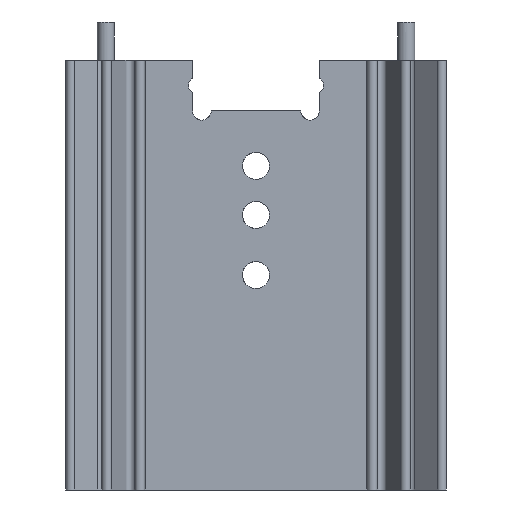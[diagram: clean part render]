
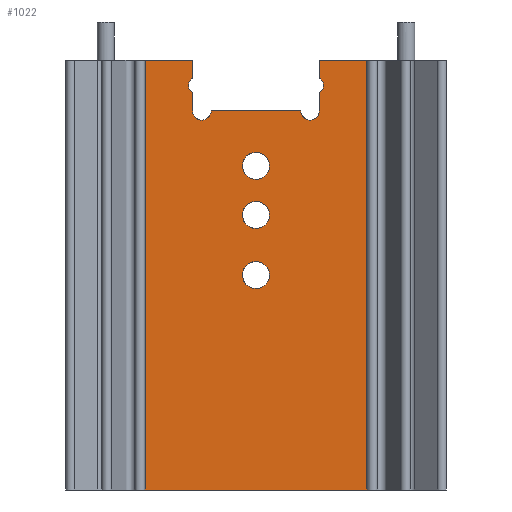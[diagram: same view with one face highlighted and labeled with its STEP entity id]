
A CAD part, front view. The second image highlights one B-rep face of the part: STEP entity #1022.
In plain terms, the highlighted planar face has unit normal (0, -1, 0).
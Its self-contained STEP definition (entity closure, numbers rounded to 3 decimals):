
#112=CARTESIAN_POINT('',(1.6,-0.002,12.7));
#113=VERTEX_POINT('',#112);
#114=CARTESIAN_POINT('',(0.,-0.002,12.7));
#115=DIRECTION('',(0.,1.,0.0));
#116=DIRECTION('',(-1.,0.,0.0));
#117=AXIS2_PLACEMENT_3D('',#114,#115,#116);
#118=ELLIPSE('',#117,1.6,1.6);
#119=EDGE_CURVE('',#113,#113,#118,.T.);
#140=CARTESIAN_POINT('',(1.6,-0.002,19.8));
#141=VERTEX_POINT('',#140);
#142=CARTESIAN_POINT('',(0.,-0.002,19.8));
#143=DIRECTION('',(0.,1.,0.0));
#144=DIRECTION('',(-1.,0.,0.0));
#145=AXIS2_PLACEMENT_3D('',#142,#143,#144);
#146=ELLIPSE('',#145,1.6,1.6);
#147=EDGE_CURVE('',#141,#141,#146,.T.);
#168=CARTESIAN_POINT('',(1.6,-0.002,25.6));
#169=VERTEX_POINT('',#168);
#170=CARTESIAN_POINT('',(0.,-0.002,25.6));
#171=DIRECTION('',(0.,1.,0.0));
#172=DIRECTION('',(-1.,0.,0.0));
#173=AXIS2_PLACEMENT_3D('',#170,#171,#172);
#174=ELLIPSE('',#173,1.6,1.6);
#175=EDGE_CURVE('',#169,#169,#174,.T.);
#504=CARTESIAN_POINT('',(13.099,-0.004,-12.7));
#505=VERTEX_POINT('',#504);
#512=CARTESIAN_POINT('',(-13.101,0.,-12.7));
#513=VERTEX_POINT('',#512);
#514=CARTESIAN_POINT('',(-13.101,0.,-12.7));
#515=DIRECTION('',(1.,0.,0.0));
#516=VECTOR('',#515,26.2);
#517=LINE('',#514,#516);
#518=EDGE_CURVE('',#513,#505,#517,.T.);
#816=CARTESIAN_POINT('',(-7.5,-0.001,34.234));
#817=VERTEX_POINT('',#816);
#818=CARTESIAN_POINT('',(-7.5,-0.001,35.966));
#819=VERTEX_POINT('',#818);
#820=CARTESIAN_POINT('',(-7.,-0.001,35.1));
#821=DIRECTION('',(0.,1.,0.0));
#822=DIRECTION('',(-1.,0.,0.));
#823=AXIS2_PLACEMENT_3D('',#820,#821,#822);
#824=ELLIPSE('',#823,1.,1.0);
#825=EDGE_CURVE('',#817,#819,#824,.T.);
#858=CARTESIAN_POINT('',(7.5,-0.003,35.966));
#859=VERTEX_POINT('',#858);
#860=CARTESIAN_POINT('',(7.5,-0.003,34.234));
#861=VERTEX_POINT('',#860);
#862=CARTESIAN_POINT('',(7.,-0.003,35.1));
#863=DIRECTION('',(0.,1.,0.0));
#864=DIRECTION('',(1.,0.,0.));
#865=AXIS2_PLACEMENT_3D('',#862,#863,#864);
#866=ELLIPSE('',#865,1.,1.0);
#867=EDGE_CURVE('',#859,#861,#866,.T.);
#909=CARTESIAN_POINT('',(-7.5,-0.001,38.1));
#910=VERTEX_POINT('',#909);
#917=CARTESIAN_POINT('',(-7.5,-0.001,35.966));
#918=DIRECTION('',(0.0,0.0,1.0));
#919=VECTOR('',#918,2.134);
#920=LINE('',#917,#919);
#921=EDGE_CURVE('',#819,#910,#920,.T.);
#926=CARTESIAN_POINT('',(13.099,-0.004,0.0));
#927=DIRECTION('',(0.,-1.,0.0));
#928=DIRECTION('',(0.0,0.0,-1.0));
#929=AXIS2_PLACEMENT_3D('',#926,#927,#928);
#930=PLANE('',#929);
#931=ORIENTED_EDGE('',*,*,#825,.T.);
#932=ORIENTED_EDGE('',*,*,#921,.T.);
#933=CARTESIAN_POINT('',(-13.101,0.,38.1));
#934=VERTEX_POINT('',#933);
#935=CARTESIAN_POINT('',(-7.5,-0.001,38.1));
#936=DIRECTION('',(-1.,0.,0.0));
#937=VECTOR('',#936,5.601);
#938=LINE('',#935,#937);
#939=EDGE_CURVE('',#910,#934,#938,.T.);
#940=ORIENTED_EDGE('',*,*,#939,.T.);
#941=CARTESIAN_POINT('',(-13.101,0.,38.1));
#942=DIRECTION('',(0.0,0.0,-1.0));
#943=VECTOR('',#942,50.8);
#944=LINE('',#941,#943);
#945=EDGE_CURVE('',#934,#513,#944,.T.);
#946=ORIENTED_EDGE('',*,*,#945,.T.);
#947=ORIENTED_EDGE('',*,*,#518,.T.);
#948=CARTESIAN_POINT('',(13.099,-0.004,38.1));
#949=VERTEX_POINT('',#948);
#950=CARTESIAN_POINT('',(13.099,-0.004,38.1));
#951=DIRECTION('',(0.0,0.0,-1.0));
#952=VECTOR('',#951,50.8);
#953=LINE('',#950,#952);
#954=EDGE_CURVE('',#949,#505,#953,.T.);
#955=ORIENTED_EDGE('',*,*,#954,.F.);
#956=CARTESIAN_POINT('',(7.5,-0.003,38.1));
#957=VERTEX_POINT('',#956);
#958=CARTESIAN_POINT('',(13.099,-0.004,38.1));
#959=DIRECTION('',(-1.,0.,0.0));
#960=VECTOR('',#959,5.599);
#961=LINE('',#958,#960);
#962=EDGE_CURVE('',#949,#957,#961,.T.);
#963=ORIENTED_EDGE('',*,*,#962,.T.);
#964=CARTESIAN_POINT('',(7.5,-0.003,38.1));
#965=DIRECTION('',(0.0,0.0,-1.0));
#966=VECTOR('',#965,2.134);
#967=LINE('',#964,#966);
#968=EDGE_CURVE('',#957,#859,#967,.T.);
#969=ORIENTED_EDGE('',*,*,#968,.T.);
#970=ORIENTED_EDGE('',*,*,#867,.T.);
#971=CARTESIAN_POINT('',(7.5,-0.003,32.1));
#972=VERTEX_POINT('',#971);
#973=CARTESIAN_POINT('',(7.5,-0.003,34.234));
#974=DIRECTION('',(0.0,0.0,-1.0));
#975=VECTOR('',#974,2.134);
#976=LINE('',#973,#975);
#977=EDGE_CURVE('',#861,#972,#976,.T.);
#978=ORIENTED_EDGE('',*,*,#977,.T.);
#979=CARTESIAN_POINT('',(5.3,-0.003,32.1));
#980=VERTEX_POINT('',#979);
#981=CARTESIAN_POINT('',(6.4,-0.003,32.1));
#982=DIRECTION('',(0.,1.,0.0));
#983=DIRECTION('',(-1.,0.,0.0));
#984=AXIS2_PLACEMENT_3D('',#981,#982,#983);
#985=ELLIPSE('',#984,1.1,1.1);
#986=EDGE_CURVE('',#972,#980,#985,.T.);
#987=ORIENTED_EDGE('',*,*,#986,.T.);
#988=CARTESIAN_POINT('',(-5.3,-0.001,32.1));
#989=VERTEX_POINT('',#988);
#990=CARTESIAN_POINT('',(5.3,-0.003,32.1));
#991=DIRECTION('',(-1.,0.,0.0));
#992=VECTOR('',#991,10.6);
#993=LINE('',#990,#992);
#994=EDGE_CURVE('',#980,#989,#993,.T.);
#995=ORIENTED_EDGE('',*,*,#994,.T.);
#996=CARTESIAN_POINT('',(-7.5,-0.001,32.1));
#997=VERTEX_POINT('',#996);
#998=CARTESIAN_POINT('',(-6.4,-0.001,32.1));
#999=DIRECTION('',(0.,1.,0.0));
#1000=DIRECTION('',(-1.,0.,0.0));
#1001=AXIS2_PLACEMENT_3D('',#998,#999,#1000);
#1002=ELLIPSE('',#1001,1.1,1.1);
#1003=EDGE_CURVE('',#989,#997,#1002,.T.);
#1004=ORIENTED_EDGE('',*,*,#1003,.T.);
#1005=CARTESIAN_POINT('',(-7.5,-0.001,32.1));
#1006=DIRECTION('',(0.0,0.0,1.0));
#1007=VECTOR('',#1006,2.134);
#1008=LINE('',#1005,#1007);
#1009=EDGE_CURVE('',#997,#817,#1008,.T.);
#1010=ORIENTED_EDGE('',*,*,#1009,.T.);
#1011=EDGE_LOOP('',(#931,#932,#940,#946,#947,#955,#963,#969,#970,#978,#987,#995,#1004,#1010));
#1012=FACE_OUTER_BOUND('',#1011,.T.);
#1013=ORIENTED_EDGE('',*,*,#175,.T.);
#1014=EDGE_LOOP('',(#1013));
#1015=FACE_BOUND('',#1014,.T.);
#1016=ORIENTED_EDGE('',*,*,#147,.T.);
#1017=EDGE_LOOP('',(#1016));
#1018=FACE_BOUND('',#1017,.T.);
#1019=ORIENTED_EDGE('',*,*,#119,.T.);
#1020=EDGE_LOOP('',(#1019));
#1021=FACE_BOUND('',#1020,.T.);
#1022=ADVANCED_FACE('',(#1012,#1015,#1018,#1021),#930,.T.);
